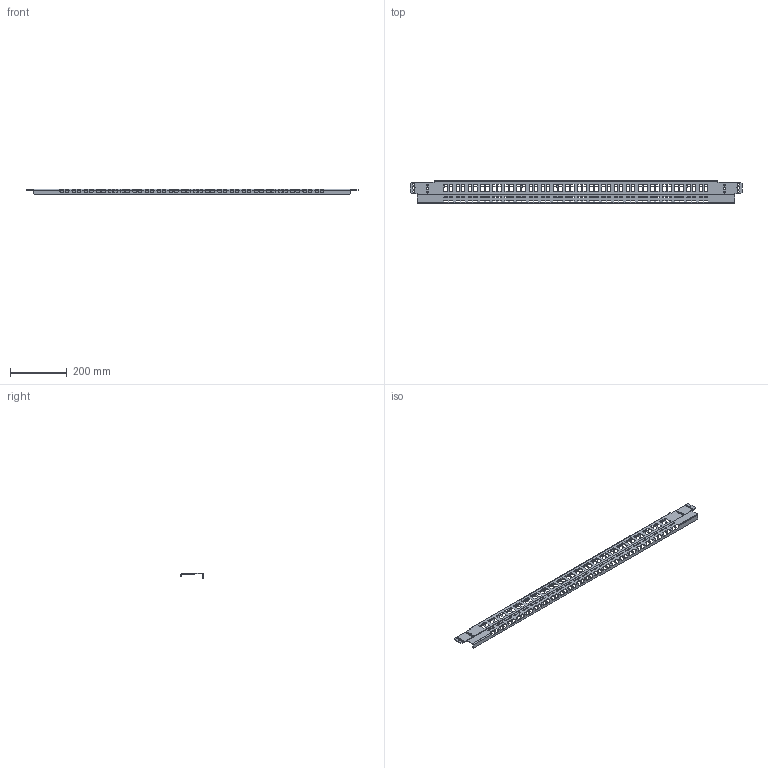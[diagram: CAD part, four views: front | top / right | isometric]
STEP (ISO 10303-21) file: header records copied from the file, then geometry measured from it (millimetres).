
FILE_DESCRIPTION (( 'STEP AP203' ), '1' );
FILE_NAME ('MG 120 EMC Ðåéêà êàáåëüíàÿ ñ êîíòàêòîì ÝÌÑ.STEP', '2024-04-22T11:14:55', ( '' ), ( '' ), 'SwSTEP 2.0', 'SolidWorks 2022', '' );
FILE_SCHEMA (( 'CONFIG_CONTROL_DESIGN' ));
Length unit declared in the file: millimetre
Products named in the file (1): MG 120 EMC Рейка кабельная с контактом ЭМС
Bounding box: 1175 x 80 x 20 mm (x, y, z)
Volume: 188186 mm3; surface area: 209935.9 mm2
Topology: 1 solids, 1 shells, 1738 faces, 5112 edges, 3288 vertices
Faces by surface type: plane 914, cylinder 824
Entity records: 58573 total; most frequent: DIRECTION 10238, ORIENTED_EDGE 10224, CARTESIAN_POINT 10139, EDGE_CURVE 5112, LINE 3464, VECTOR 3464, AXIS2_PLACEMENT_3D 3387, VERTEX_POINT 3288
